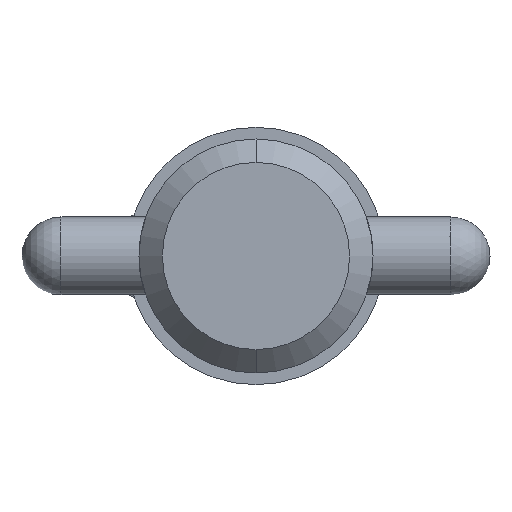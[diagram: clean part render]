
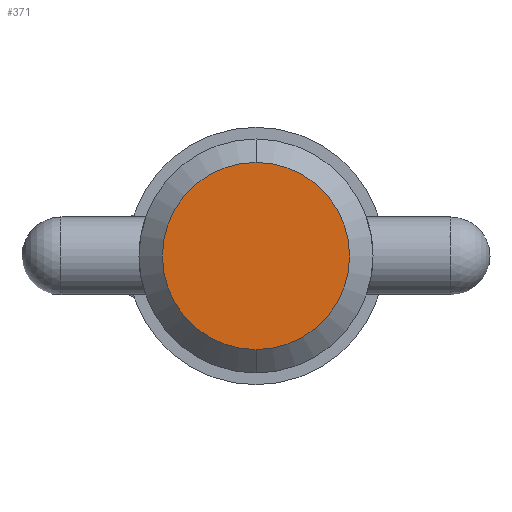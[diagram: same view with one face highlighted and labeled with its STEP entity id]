
A CAD part, left-side view. The second image highlights one B-rep face of the part: STEP entity #371.
In plain terms, the highlighted planar face has unit normal (-1, 0, 0).
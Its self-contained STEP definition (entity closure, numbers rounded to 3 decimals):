
#58 = PLANE ( 'NONE',  #715 ) ;
#63 = AXIS2_PLACEMENT_3D ( 'NONE', #573, #728, #509 ) ;
#94 = VERTEX_POINT ( 'NONE', #420 ) ;
#204 = AXIS2_PLACEMENT_3D ( 'NONE', #957, #794, #222 ) ;
#222 = DIRECTION ( 'NONE',  ( 0., 0., -1. ) ) ;
#253 = ORIENTED_EDGE ( 'NONE', *, *, #924, .F. ) ;
#259 = EDGE_LOOP ( 'NONE', ( #366, #253 ) ) ;
#366 = ORIENTED_EDGE ( 'NONE', *, *, #795, .F. ) ;
#371 = ADVANCED_FACE ( 'NONE', ( #712 ), #58, .T. ) ;
#420 = CARTESIAN_POINT ( 'NONE',  ( 0., 0., 7.62 ) ) ;
#481 = DIRECTION ( 'NONE',  ( 0., 0., 1. ) ) ;
#509 = DIRECTION ( 'NONE',  ( 0., 0., -1. ) ) ;
#573 = CARTESIAN_POINT ( 'NONE',  ( 0., 0., 0. ) ) ;
#712 = FACE_OUTER_BOUND ( 'NONE', #259, .T. ) ;
#715 = AXIS2_PLACEMENT_3D ( 'NONE', #723, #726, #481 ) ;
#723 = CARTESIAN_POINT ( 'NONE',  ( 0., 0., 0. ) ) ;
#726 = DIRECTION ( 'NONE',  ( -1., 0., 0. ) ) ;
#728 = DIRECTION ( 'NONE',  ( 1., 0., 0. ) ) ;
#794 = DIRECTION ( 'NONE',  ( 1., 0., 0. ) ) ;
#795 = EDGE_CURVE ( 'NONE', #812, #94, #1001, .T. ) ;
#812 = VERTEX_POINT ( 'NONE', #906 ) ;
#815 = CIRCLE ( 'NONE', #63, 7.62 ) ;
#906 = CARTESIAN_POINT ( 'NONE',  ( 0., 0., -7.62 ) ) ;
#924 = EDGE_CURVE ( 'NONE', #94, #812, #815, .T. ) ;
#957 = CARTESIAN_POINT ( 'NONE',  ( 0., 0., 0. ) ) ;
#1001 = CIRCLE ( 'NONE', #204, 7.62 ) ;
